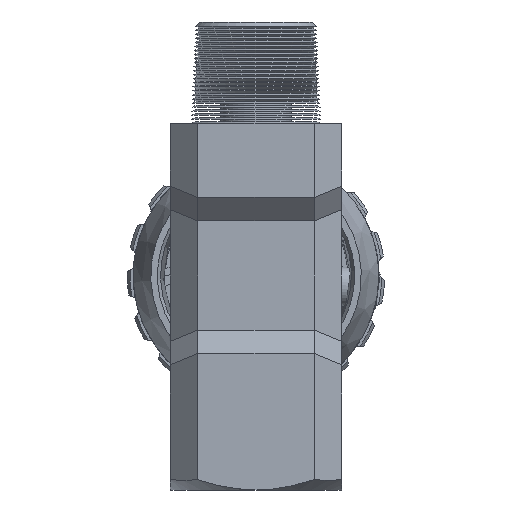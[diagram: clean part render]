
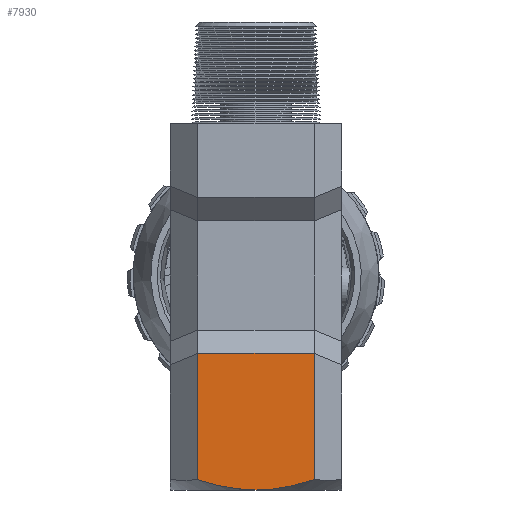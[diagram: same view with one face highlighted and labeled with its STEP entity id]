
A CAD part, front view. The second image highlights one B-rep face of the part: STEP entity #7930.
In plain terms, the highlighted planar face has unit normal (0, -1, 0).
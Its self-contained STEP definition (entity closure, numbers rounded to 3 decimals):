
#29 = VECTOR ( 'NONE', #9266, 1000. ) ;
#1495 = DIRECTION ( 'NONE',  ( 0., 0., 1. ) ) ;
#1605 = CARTESIAN_POINT ( 'NONE',  ( 1.284, -11., -27.467 ) ) ;
#2531 = CARTESIAN_POINT ( 'NONE',  ( 7.5, -11., -26.164 ) ) ;
#2547 = EDGE_CURVE ( 'NONE', #8188, #11202, #10886, .T. ) ;
#2625 = ORIENTED_EDGE ( 'NONE', *, *, #14241, .F. ) ;
#3757 = PLANE ( 'NONE',  #11225 ) ;
#3977 = CARTESIAN_POINT ( 'NONE',  ( 0., -11., -27.5 ) ) ;
#5222 = ORIENTED_EDGE ( 'NONE', *, *, #30063, .F. ) ;
#5480 = VECTOR ( 'NONE', #25311, 1000. ) ;
#6265 = LINE ( 'NONE', #6688, #29 ) ;
#6588 = FACE_OUTER_BOUND ( 'NONE', #16571, .T. ) ;
#6688 = CARTESIAN_POINT ( 'NONE',  ( -7.5, -11., 32.5 ) ) ;
#7102 = CARTESIAN_POINT ( 'NONE',  ( 7.5, -11., 32.5 ) ) ;
#7174 = CARTESIAN_POINT ( 'NONE',  ( 0., -11., -27.5 ) ) ;
#7930 = ADVANCED_FACE ( 'NONE', ( #6588 ), #3757, .F. ) ;
#8052 = LINE ( 'NONE', #7102, #13542 ) ;
#8188 = VERTEX_POINT ( 'NONE', #2531 ) ;
#8316 = CARTESIAN_POINT ( 'NONE',  ( -7.5, -11., -10. ) ) ;
#8543 = CARTESIAN_POINT ( 'NONE',  ( 0., -11., -27.5 ) ) ;
#8609 = CARTESIAN_POINT ( 'NONE',  ( 7.5, -11., -26.164 ) ) ;
#8759 = CARTESIAN_POINT ( 'NONE',  ( -11., -11., -10. ) ) ;
#9266 = DIRECTION ( 'NONE',  ( 0., 0., -1. ) ) ;
#10886 = B_SPLINE_CURVE_WITH_KNOTS ( 'NONE', 3,
 ( #8609, #27517, #13320, #29928, #15680, #1605, #18087, #3977 ),
 .UNSPECIFIED., .F., .F.,
 ( 4, 2, 2, 4 ),
 ( 0.029, 0.033, 0.035, 0.037 ),
 .UNSPECIFIED. ) ;
#10911 = CARTESIAN_POINT ( 'NONE',  ( -1.279, -11., -27.5 ) ) ;
#11202 = VERTEX_POINT ( 'NONE', #7174 ) ;
#11225 = AXIS2_PLACEMENT_3D ( 'NONE', #29820, #15579, #1495 ) ;
#11837 = VERTEX_POINT ( 'NONE', #22392 ) ;
#12951 = EDGE_CURVE ( 'NONE', #8188, #11837, #8052, .T. ) ;
#13250 = CARTESIAN_POINT ( 'NONE',  ( -5.043, -11., -26.898 ) ) ;
#13320 = CARTESIAN_POINT ( 'NONE',  ( 5.057, -11., -26.894 ) ) ;
#13542 = VECTOR ( 'NONE', #26016, 1000. ) ;
#14241 = EDGE_CURVE ( 'NONE', #11202, #18754, #17149, .T. ) ;
#15579 = DIRECTION ( 'NONE',  ( 0., 1., 0. ) ) ;
#15623 = CARTESIAN_POINT ( 'NONE',  ( -7.5, -11., -26.164 ) ) ;
#15680 = CARTESIAN_POINT ( 'NONE',  ( 2.555, -11., -27.341 ) ) ;
#16571 = EDGE_LOOP ( 'NONE', ( #17786, #23383, #5222, #26941, #2625 ) ) ;
#17149 = B_SPLINE_CURVE_WITH_KNOTS ( 'NONE', 3,
 ( #8543, #10911, #27452, #13250, #29863, #15623 ),
 .UNSPECIFIED., .F., .F.,
 ( 4, 2, 4 ),
 ( 0.037, 0.041, 0.045 ),
 .UNSPECIFIED. ) ;
#17786 = ORIENTED_EDGE ( 'NONE', *, *, #2547, .F. ) ;
#18087 = CARTESIAN_POINT ( 'NONE',  ( 0.639, -11., -27.5 ) ) ;
#18754 = VERTEX_POINT ( 'NONE', #23232 ) ;
#20506 = VERTEX_POINT ( 'NONE', #8316 ) ;
#22392 = CARTESIAN_POINT ( 'NONE',  ( 7.5, -11., -10. ) ) ;
#23232 = CARTESIAN_POINT ( 'NONE',  ( -7.5, -11., -26.164 ) ) ;
#23383 = ORIENTED_EDGE ( 'NONE', *, *, #12951, .T. ) ;
#23585 = LINE ( 'NONE', #8759, #5480 ) ;
#25261 = EDGE_CURVE ( 'NONE', #20506, #18754, #6265, .T. ) ;
#25311 = DIRECTION ( 'NONE',  ( 1., 0., 0. ) ) ;
#26016 = DIRECTION ( 'NONE',  ( 0., 0., 1. ) ) ;
#26941 = ORIENTED_EDGE ( 'NONE', *, *, #25261, .T. ) ;
#27452 = CARTESIAN_POINT ( 'NONE',  ( -2.542, -11., -27.368 ) ) ;
#27517 = CARTESIAN_POINT ( 'NONE',  ( 6.285, -11., -26.559 ) ) ;
#29820 = CARTESIAN_POINT ( 'NONE',  ( -11., -11., 32.5 ) ) ;
#29863 = CARTESIAN_POINT ( 'NONE',  ( -6.286, -11., -26.559 ) ) ;
#29928 = CARTESIAN_POINT ( 'NONE',  ( 3.185, -11., -27.248 ) ) ;
#30063 = EDGE_CURVE ( 'NONE', #20506, #11837, #23585, .T. ) ;
